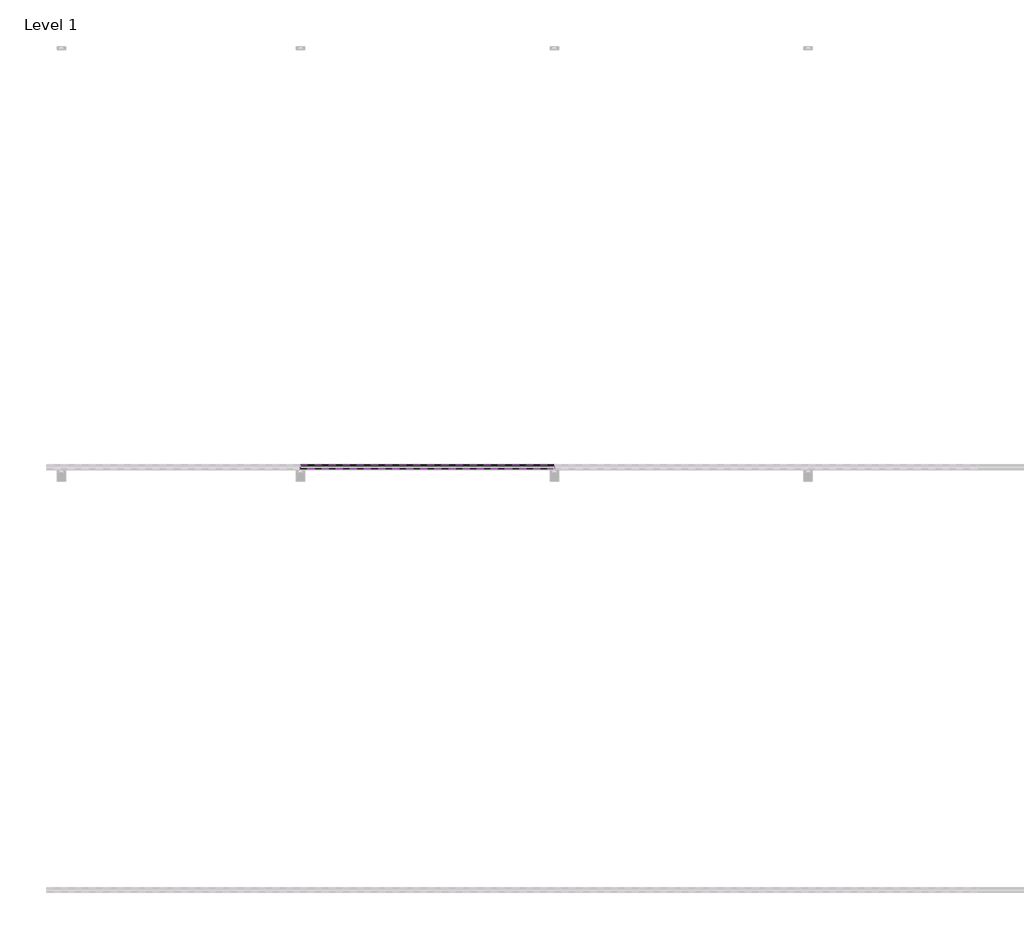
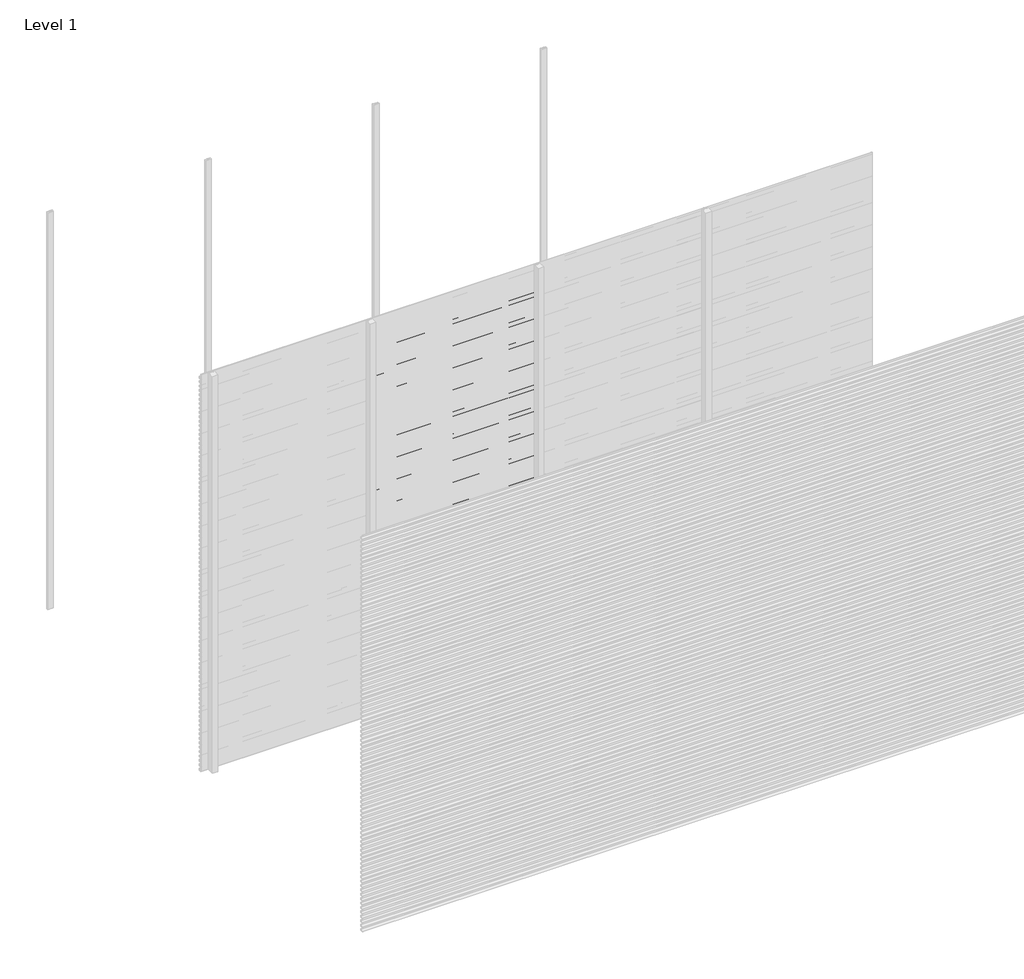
# One storey, part 36 of 77: 72 proxies.
"""IFC4 building model written with IfcOpenShell, lengths in millimetres."""

from ifc_helpers import new_model, si_unit, frame, origin, place, context, project, spatial, polyline, outline, extrude, element, save

model = new_model("IFC4")

# Units and contexts
model_context = context("Model", 3, world=origin())
ifc_project = project(units=[si_unit("LENGTHUNIT", "METRE", prefix="MILLI")], contexts=[model_context])

# Site, building, storey
site = spatial("IfcSite", under=ifc_project)
building = spatial("IfcBuilding", under=site)
storey = spatial("IfcBuildingStorey", under=building, Name="Level 1", Elevation=0.0)

# Proxies
placement = place(None, origin())
element("IfcBuildingElementProxy", 1, Name="Wall Sweeps", at=placement, inside=storey, context=model_context, shape_type="SweptSolid", body=[
    extrude(outline(polyline([(-29978.6, 2806.0359887), (-29998.0, 2817.2366691), (-29998.0, 2830.5), (-29997.0, 2830.5), (-29997.0, 2817.8191057), (-29977.6, 2806.6185105), (-29977.6, 2793.0185105), (-29978.6, 2794.5953129), (-29978.6, 2800.4032062), (-29995.9773817, 2792.3), (-29996.4, 2793.2063078), (-29978.6, 2801.5065841), (-29978.6, 2806.0359887)])), frame((1200.0, 0.0, 0.0), z_axis=(1.0, 0.0, 0.0), x_axis=(0.0, 1.0, 0.0)), (0.0, 0.0, 1.0), 1200.0),
])
element("IfcBuildingElementProxy", 2, Name="Wall Sweeps", at=placement, inside=storey, context=model_context, shape_type="SweptSolid", body=[
    extrude(outline(polyline([(-29978.6, 2772.7359887), (-29998.0, 2783.9366691), (-29998.0, 2797.2), (-29997.0, 2797.2), (-29997.0, 2784.5191057), (-29977.6, 2773.3185105), (-29977.6, 2759.7185105), (-29978.6, 2761.2953129), (-29978.6, 2767.1032062), (-29995.9773817, 2759.0), (-29996.4, 2759.9063078), (-29978.6, 2768.2065841), (-29978.6, 2772.7359887)])), frame((1200.0, 0.0, 0.0), z_axis=(1.0, 0.0, 0.0), x_axis=(0.0, 1.0, 0.0)), (0.0, 0.0, 1.0), 1200.0),
])
element("IfcBuildingElementProxy", 3, Name="Wall Sweeps", at=placement, inside=storey, context=model_context, shape_type="SweptSolid", body=[
    extrude(outline(polyline([(-29978.6, 2739.4359887), (-29998.0, 2750.6366691), (-29998.0, 2763.9), (-29997.0, 2763.9), (-29997.0, 2751.2191057), (-29977.6, 2740.0185105), (-29977.6, 2726.4185105), (-29978.6, 2727.9953129), (-29978.6, 2733.8032062), (-29995.9773817, 2725.7), (-29996.4, 2726.6063078), (-29978.6, 2734.9065841), (-29978.6, 2739.4359887)])), frame((1200.0, 0.0, 0.0), z_axis=(1.0, 0.0, 0.0), x_axis=(0.0, 1.0, 0.0)), (0.0, 0.0, 1.0), 1200.0),
])
element("IfcBuildingElementProxy", 4, Name="Wall Sweeps", at=placement, inside=storey, context=model_context, shape_type="SweptSolid", body=[
    extrude(outline(polyline([(-29978.6, 2706.1359887), (-29998.0, 2717.3366691), (-29998.0, 2730.6), (-29997.0, 2730.6), (-29997.0, 2717.9191057), (-29977.6, 2706.7185105), (-29977.6, 2693.1185105), (-29978.6, 2694.6953129), (-29978.6, 2700.5032062), (-29995.9773817, 2692.4), (-29996.4, 2693.3063078), (-29978.6, 2701.6065841), (-29978.6, 2706.1359887)])), frame((1200.0, 0.0, 0.0), z_axis=(1.0, 0.0, 0.0), x_axis=(0.0, 1.0, 0.0)), (0.0, 0.0, 1.0), 1200.0),
])
element("IfcBuildingElementProxy", 5, Name="Wall Sweeps", at=placement, inside=storey, context=model_context, shape_type="SweptSolid", body=[
    extrude(outline(polyline([(-29978.6, 2672.8359887), (-29998.0, 2684.0366691), (-29998.0, 2697.3), (-29997.0, 2697.3), (-29997.0, 2684.6191057), (-29977.6, 2673.4185105), (-29977.6, 2659.8185105), (-29978.6, 2661.3953129), (-29978.6, 2667.2032062), (-29995.9773817, 2659.1), (-29996.4, 2660.0063078), (-29978.6, 2668.3065841), (-29978.6, 2672.8359887)])), frame((1200.0, 0.0, 0.0), z_axis=(1.0, 0.0, 0.0), x_axis=(0.0, 1.0, 0.0)), (0.0, 0.0, 1.0), 1200.0),
])
element("IfcBuildingElementProxy", 6, Name="Wall Sweeps", at=placement, inside=storey, context=model_context, shape_type="SweptSolid", body=[
    extrude(outline(polyline([(-29978.6, 2639.5359887), (-29998.0, 2650.7366691), (-29998.0, 2664.0), (-29997.0, 2664.0), (-29997.0, 2651.3191057), (-29977.6, 2640.1185105), (-29977.6, 2626.5185105), (-29978.6, 2628.0953129), (-29978.6, 2633.9032062), (-29995.9773817, 2625.8), (-29996.4, 2626.7063078), (-29978.6, 2635.0065841), (-29978.6, 2639.5359887)])), frame((1200.0, 0.0, 0.0), z_axis=(1.0, 0.0, 0.0), x_axis=(0.0, 1.0, 0.0)), (0.0, 0.0, 1.0), 1200.0),
])
element("IfcBuildingElementProxy", 7, Name="Wall Sweeps", at=placement, inside=storey, context=model_context, shape_type="SweptSolid", body=[
    extrude(outline(polyline([(-29978.6, 2606.2359887), (-29998.0, 2617.4366691), (-29998.0, 2630.7), (-29997.0, 2630.7), (-29997.0, 2618.0191057), (-29977.6, 2606.8185105), (-29977.6, 2593.2185105), (-29978.6, 2594.7953129), (-29978.6, 2600.6032062), (-29995.9773817, 2592.5), (-29996.4, 2593.4063078), (-29978.6, 2601.7065841), (-29978.6, 2606.2359887)])), frame((1200.0, 0.0, 0.0), z_axis=(1.0, 0.0, 0.0), x_axis=(0.0, 1.0, 0.0)), (0.0, 0.0, 1.0), 1200.0),
])
element("IfcBuildingElementProxy", 8, Name="Wall Sweeps", at=placement, inside=storey, context=model_context, shape_type="SweptSolid", body=[
    extrude(outline(polyline([(-29978.6, 2572.9359887), (-29998.0, 2584.1366691), (-29998.0, 2597.4), (-29997.0, 2597.4), (-29997.0, 2584.7191057), (-29977.6, 2573.5185105), (-29977.6, 2559.9185105), (-29978.6, 2561.4953129), (-29978.6, 2567.3032062), (-29995.9773817, 2559.2), (-29996.4, 2560.1063078), (-29978.6, 2568.4065841), (-29978.6, 2572.9359887)])), frame((1200.0, 0.0, 0.0), z_axis=(1.0, 0.0, 0.0), x_axis=(0.0, 1.0, 0.0)), (0.0, 0.0, 1.0), 1200.0),
])
element("IfcBuildingElementProxy", 9, Name="Wall Sweeps", at=placement, inside=storey, context=model_context, shape_type="SweptSolid", body=[
    extrude(outline(polyline([(-29978.6, 2539.6359887), (-29998.0, 2550.8366691), (-29998.0, 2564.1), (-29997.0, 2564.1), (-29997.0, 2551.4191057), (-29977.6, 2540.2185105), (-29977.6, 2526.6185105), (-29978.6, 2528.1953129), (-29978.6, 2534.0032062), (-29995.9773817, 2525.9), (-29996.4, 2526.8063078), (-29978.6, 2535.1065841), (-29978.6, 2539.6359887)])), frame((1200.0, 0.0, 0.0), z_axis=(1.0, 0.0, 0.0), x_axis=(0.0, 1.0, 0.0)), (0.0, 0.0, 1.0), 1200.0),
])
element("IfcBuildingElementProxy", 10, Name="Wall Sweeps", at=placement, inside=storey, context=model_context, shape_type="SweptSolid", body=[
    extrude(outline(polyline([(-29978.6, 2506.3359887), (-29998.0, 2517.5366691), (-29998.0, 2530.8), (-29997.0, 2530.8), (-29997.0, 2518.1191057), (-29977.6, 2506.9185105), (-29977.6, 2493.3185105), (-29978.6, 2494.8953129), (-29978.6, 2500.7032062), (-29995.9773817, 2492.6), (-29996.4, 2493.5063078), (-29978.6, 2501.8065841), (-29978.6, 2506.3359887)])), frame((1200.0, 0.0, 0.0), z_axis=(1.0, 0.0, 0.0), x_axis=(0.0, 1.0, 0.0)), (0.0, 0.0, 1.0), 1200.0),
])
element("IfcBuildingElementProxy", 11, Name="Wall Sweeps", at=placement, inside=storey, context=model_context, shape_type="SweptSolid", body=[
    extrude(outline(polyline([(-29978.6, 2473.0359887), (-29998.0, 2484.2366691), (-29998.0, 2497.5), (-29997.0, 2497.5), (-29997.0, 2484.8191057), (-29977.6, 2473.6185105), (-29977.6, 2460.0185105), (-29978.6, 2461.5953129), (-29978.6, 2467.4032062), (-29995.9773817, 2459.3), (-29996.4, 2460.2063078), (-29978.6, 2468.5065841), (-29978.6, 2473.0359887)])), frame((1200.0, 0.0, 0.0), z_axis=(1.0, 0.0, 0.0), x_axis=(0.0, 1.0, 0.0)), (0.0, 0.0, 1.0), 1200.0),
])
element("IfcBuildingElementProxy", 12, Name="Wall Sweeps", at=placement, inside=storey, context=model_context, shape_type="SweptSolid", body=[
    extrude(outline(polyline([(-29978.6, 2439.7359887), (-29998.0, 2450.9366691), (-29998.0, 2464.2), (-29997.0, 2464.2), (-29997.0, 2451.5191057), (-29977.6, 2440.3185105), (-29977.6, 2426.7185105), (-29978.6, 2428.2953129), (-29978.6, 2434.1032062), (-29995.9773817, 2426.0), (-29996.4, 2426.9063078), (-29978.6, 2435.2065841), (-29978.6, 2439.7359887)])), frame((1200.0, 0.0, 0.0), z_axis=(1.0, 0.0, 0.0), x_axis=(0.0, 1.0, 0.0)), (0.0, 0.0, 1.0), 1200.0),
])
element("IfcBuildingElementProxy", 13, Name="Wall Sweeps", at=placement, inside=storey, context=model_context, shape_type="SweptSolid", body=[
    extrude(outline(polyline([(-29978.6, 2406.4359887), (-29998.0, 2417.6366691), (-29998.0, 2430.9), (-29997.0, 2430.9), (-29997.0, 2418.2191057), (-29977.6, 2407.0185105), (-29977.6, 2393.4185105), (-29978.6, 2394.9953129), (-29978.6, 2400.8032062), (-29995.9773817, 2392.7), (-29996.4, 2393.6063078), (-29978.6, 2401.9065841), (-29978.6, 2406.4359887)])), frame((1200.0, 0.0, 0.0), z_axis=(1.0, 0.0, 0.0), x_axis=(0.0, 1.0, 0.0)), (0.0, 0.0, 1.0), 1200.0),
])
element("IfcBuildingElementProxy", 14, Name="Wall Sweeps", at=placement, inside=storey, context=model_context, shape_type="SweptSolid", body=[
    extrude(outline(polyline([(-29978.6, 2373.1359887), (-29998.0, 2384.3366691), (-29998.0, 2397.6), (-29997.0, 2397.6), (-29997.0, 2384.9191057), (-29977.6, 2373.7185105), (-29977.6, 2360.1185105), (-29978.6, 2361.6953129), (-29978.6, 2367.5032062), (-29995.9773817, 2359.4), (-29996.4, 2360.3063078), (-29978.6, 2368.6065841), (-29978.6, 2373.1359887)])), frame((1200.0, 0.0, 0.0), z_axis=(1.0, 0.0, 0.0), x_axis=(0.0, 1.0, 0.0)), (0.0, 0.0, 1.0), 1200.0),
])
element("IfcBuildingElementProxy", 15, Name="Wall Sweeps", at=placement, inside=storey, context=model_context, shape_type="SweptSolid", body=[
    extrude(outline(polyline([(-29978.6, 2339.8359887), (-29998.0, 2351.0366691), (-29998.0, 2364.3), (-29997.0, 2364.3), (-29997.0, 2351.6191057), (-29977.6, 2340.4185105), (-29977.6, 2326.8185105), (-29978.6, 2328.3953129), (-29978.6, 2334.2032062), (-29995.9773817, 2326.1), (-29996.4, 2327.0063078), (-29978.6, 2335.3065841), (-29978.6, 2339.8359887)])), frame((1200.0, 0.0, 0.0), z_axis=(1.0, 0.0, 0.0), x_axis=(0.0, 1.0, 0.0)), (0.0, 0.0, 1.0), 1200.0),
])
element("IfcBuildingElementProxy", 16, Name="Wall Sweeps", at=placement, inside=storey, context=model_context, shape_type="SweptSolid", body=[
    extrude(outline(polyline([(-29978.6, 2306.5359887), (-29998.0, 2317.7366691), (-29998.0, 2331.0), (-29997.0, 2331.0), (-29997.0, 2318.3191057), (-29977.6, 2307.1185105), (-29977.6, 2293.5185105), (-29978.6, 2295.0953129), (-29978.6, 2300.9032062), (-29995.9773817, 2292.8), (-29996.4, 2293.7063078), (-29978.6, 2302.0065841), (-29978.6, 2306.5359887)])), frame((1200.0, 0.0, 0.0), z_axis=(1.0, 0.0, 0.0), x_axis=(0.0, 1.0, 0.0)), (0.0, 0.0, 1.0), 1200.0),
])
element("IfcBuildingElementProxy", 17, Name="Wall Sweeps", at=placement, inside=storey, context=model_context, shape_type="SweptSolid", body=[
    extrude(outline(polyline([(-29978.6, 2273.2359887), (-29998.0, 2284.4366691), (-29998.0, 2297.7), (-29997.0, 2297.7), (-29997.0, 2285.0191057), (-29977.6, 2273.8185105), (-29977.6, 2260.2185105), (-29978.6, 2261.7953129), (-29978.6, 2267.6032062), (-29995.9773817, 2259.5), (-29996.4, 2260.4063078), (-29978.6, 2268.7065841), (-29978.6, 2273.2359887)])), frame((1200.0, 0.0, 0.0), z_axis=(1.0, 0.0, 0.0), x_axis=(0.0, 1.0, 0.0)), (0.0, 0.0, 1.0), 1200.0),
])
element("IfcBuildingElementProxy", 18, Name="Wall Sweeps", at=placement, inside=storey, context=model_context, shape_type="SweptSolid", body=[
    extrude(outline(polyline([(-29978.6, 2239.9359887), (-29998.0, 2251.1366691), (-29998.0, 2264.4), (-29997.0, 2264.4), (-29997.0, 2251.7191057), (-29977.6, 2240.5185105), (-29977.6, 2226.9185105), (-29978.6, 2228.4953129), (-29978.6, 2234.3032062), (-29995.9773817, 2226.2), (-29996.4, 2227.1063078), (-29978.6, 2235.4065841), (-29978.6, 2239.9359887)])), frame((1200.0, 0.0, 0.0), z_axis=(1.0, 0.0, 0.0), x_axis=(0.0, 1.0, 0.0)), (0.0, 0.0, 1.0), 1200.0),
])
element("IfcBuildingElementProxy", 19, Name="Wall Sweeps", at=placement, inside=storey, context=model_context, shape_type="SweptSolid", body=[
    extrude(outline(polyline([(-29978.6, 2206.6359887), (-29998.0, 2217.8366691), (-29998.0, 2231.1), (-29997.0, 2231.1), (-29997.0, 2218.4191057), (-29977.6, 2207.2185105), (-29977.6, 2193.6185105), (-29978.6, 2195.1953129), (-29978.6, 2201.0032062), (-29995.9773817, 2192.9), (-29996.4, 2193.8063078), (-29978.6, 2202.1065841), (-29978.6, 2206.6359887)])), frame((1200.0, 0.0, 0.0), z_axis=(1.0, 0.0, 0.0), x_axis=(0.0, 1.0, 0.0)), (0.0, 0.0, 1.0), 1200.0),
])
element("IfcBuildingElementProxy", 20, Name="Wall Sweeps", at=placement, inside=storey, context=model_context, shape_type="SweptSolid", body=[
    extrude(outline(polyline([(-29978.6, 2173.3359887), (-29998.0, 2184.5366691), (-29998.0, 2197.8), (-29997.0, 2197.8), (-29997.0, 2185.1191057), (-29977.6, 2173.9185105), (-29977.6, 2160.3185105), (-29978.6, 2161.8953129), (-29978.6, 2167.7032062), (-29995.9773817, 2159.6), (-29996.4, 2160.5063078), (-29978.6, 2168.8065841), (-29978.6, 2173.3359887)])), frame((1200.0, 0.0, 0.0), z_axis=(1.0, 0.0, 0.0), x_axis=(0.0, 1.0, 0.0)), (0.0, 0.0, 1.0), 1200.0),
])
element("IfcBuildingElementProxy", 21, Name="Wall Sweeps", at=placement, inside=storey, context=model_context, shape_type="SweptSolid", body=[
    extrude(outline(polyline([(-29978.6, 2140.0359887), (-29998.0, 2151.2366691), (-29998.0, 2164.5), (-29997.0, 2164.5), (-29997.0, 2151.8191057), (-29977.6, 2140.6185105), (-29977.6, 2127.0185105), (-29978.6, 2128.5953129), (-29978.6, 2134.4032062), (-29995.9773817, 2126.3), (-29996.4, 2127.2063078), (-29978.6, 2135.5065841), (-29978.6, 2140.0359887)])), frame((1200.0, 0.0, 0.0), z_axis=(1.0, 0.0, 0.0), x_axis=(0.0, 1.0, 0.0)), (0.0, 0.0, 1.0), 1200.0),
])
element("IfcBuildingElementProxy", 22, Name="Wall Sweeps", at=placement, inside=storey, context=model_context, shape_type="SweptSolid", body=[
    extrude(outline(polyline([(-29978.6, 2106.7359887), (-29998.0, 2117.9366691), (-29998.0, 2131.2), (-29997.0, 2131.2), (-29997.0, 2118.5191057), (-29977.6, 2107.3185105), (-29977.6, 2093.7185105), (-29978.6, 2095.2953129), (-29978.6, 2101.1032062), (-29995.9773817, 2093.0), (-29996.4, 2093.9063078), (-29978.6, 2102.2065841), (-29978.6, 2106.7359887)])), frame((1200.0, 0.0, 0.0), z_axis=(1.0, 0.0, 0.0), x_axis=(0.0, 1.0, 0.0)), (0.0, 0.0, 1.0), 1200.0),
])
element("IfcBuildingElementProxy", 23, Name="Wall Sweeps", at=placement, inside=storey, context=model_context, shape_type="SweptSolid", body=[
    extrude(outline(polyline([(-29978.6, 2073.4359887), (-29998.0, 2084.6366691), (-29998.0, 2097.9), (-29997.0, 2097.9), (-29997.0, 2085.2191057), (-29977.6, 2074.0185105), (-29977.6, 2060.4185105), (-29978.6, 2061.9953129), (-29978.6, 2067.8032062), (-29995.9773817, 2059.7), (-29996.4, 2060.6063078), (-29978.6, 2068.9065841), (-29978.6, 2073.4359887)])), frame((1200.0, 0.0, 0.0), z_axis=(1.0, 0.0, 0.0), x_axis=(0.0, 1.0, 0.0)), (0.0, 0.0, 1.0), 1200.0),
])
element("IfcBuildingElementProxy", 24, Name="Wall Sweeps", at=placement, inside=storey, context=model_context, shape_type="SweptSolid", body=[
    extrude(outline(polyline([(-29978.6, 2040.1359887), (-29998.0, 2051.3366691), (-29998.0, 2064.6), (-29997.0, 2064.6), (-29997.0, 2051.9191057), (-29977.6, 2040.7185105), (-29977.6, 2027.1185105), (-29978.6, 2028.6953129), (-29978.6, 2034.5032062), (-29995.9773817, 2026.4), (-29996.4, 2027.3063078), (-29978.6, 2035.6065841), (-29978.6, 2040.1359887)])), frame((1200.0, 0.0, 0.0), z_axis=(1.0, 0.0, 0.0), x_axis=(0.0, 1.0, 0.0)), (0.0, 0.0, 1.0), 1200.0),
])
element("IfcBuildingElementProxy", 25, Name="Wall Sweeps", at=placement, inside=storey, context=model_context, shape_type="SweptSolid", body=[
    extrude(outline(polyline([(-29978.6, 2006.8359887), (-29998.0, 2018.0366691), (-29998.0, 2031.3), (-29997.0, 2031.3), (-29997.0, 2018.6191057), (-29977.6, 2007.4185105), (-29977.6, 1993.8185105), (-29978.6, 1995.3953129), (-29978.6, 2001.2032062), (-29995.9773817, 1993.1), (-29996.4, 1994.0063078), (-29978.6, 2002.3065841), (-29978.6, 2006.8359887)])), frame((1200.0, 0.0, 0.0), z_axis=(1.0, 0.0, 0.0), x_axis=(0.0, 1.0, 0.0)), (0.0, 0.0, 1.0), 1200.0),
])
element("IfcBuildingElementProxy", 26, Name="Wall Sweeps", at=placement, inside=storey, context=model_context, shape_type="SweptSolid", body=[
    extrude(outline(polyline([(-29978.6, 1973.5359887), (-29998.0, 1984.7366691), (-29998.0, 1998.0), (-29997.0, 1998.0), (-29997.0, 1985.3191057), (-29977.6, 1974.1185105), (-29977.6, 1960.5185105), (-29978.6, 1962.0953129), (-29978.6, 1967.9032062), (-29995.9773817, 1959.8), (-29996.4, 1960.7063078), (-29978.6, 1969.0065841), (-29978.6, 1973.5359887)])), frame((1200.0, 0.0, 0.0), z_axis=(1.0, 0.0, 0.0), x_axis=(0.0, 1.0, 0.0)), (0.0, 0.0, 1.0), 1200.0),
])
element("IfcBuildingElementProxy", 27, Name="Wall Sweeps", at=placement, inside=storey, context=model_context, shape_type="SweptSolid", body=[
    extrude(outline(polyline([(-29978.6, 1940.2359887), (-29998.0, 1951.4366691), (-29998.0, 1964.7), (-29997.0, 1964.7), (-29997.0, 1952.0191057), (-29977.6, 1940.8185105), (-29977.6, 1927.2185105), (-29978.6, 1928.7953129), (-29978.6, 1934.6032062), (-29995.9773817, 1926.5), (-29996.4, 1927.4063078), (-29978.6, 1935.7065841), (-29978.6, 1940.2359887)])), frame((1200.0, 0.0, 0.0), z_axis=(1.0, 0.0, 0.0), x_axis=(0.0, 1.0, 0.0)), (0.0, 0.0, 1.0), 1200.0),
])
element("IfcBuildingElementProxy", 28, Name="Wall Sweeps", at=placement, inside=storey, context=model_context, shape_type="SweptSolid", body=[
    extrude(outline(polyline([(-29978.6, 1906.9359887), (-29998.0, 1918.1366691), (-29998.0, 1931.4), (-29997.0, 1931.4), (-29997.0, 1918.7191057), (-29977.6, 1907.5185105), (-29977.6, 1893.9185105), (-29978.6, 1895.4953129), (-29978.6, 1901.3032062), (-29995.9773817, 1893.2), (-29996.4, 1894.1063078), (-29978.6, 1902.4065841), (-29978.6, 1906.9359887)])), frame((1200.0, 0.0, 0.0), z_axis=(1.0, 0.0, 0.0), x_axis=(0.0, 1.0, 0.0)), (0.0, 0.0, 1.0), 1200.0),
])
element("IfcBuildingElementProxy", 29, Name="Wall Sweeps", at=placement, inside=storey, context=model_context, shape_type="SweptSolid", body=[
    extrude(outline(polyline([(-29978.6, 1873.6359887), (-29998.0, 1884.8366691), (-29998.0, 1898.1), (-29997.0, 1898.1), (-29997.0, 1885.4191057), (-29977.6, 1874.2185105), (-29977.6, 1860.6185105), (-29978.6, 1862.1953129), (-29978.6, 1868.0032062), (-29995.9773817, 1859.9), (-29996.4, 1860.8063078), (-29978.6, 1869.1065841), (-29978.6, 1873.6359887)])), frame((1200.0, 0.0, 0.0), z_axis=(1.0, 0.0, 0.0), x_axis=(0.0, 1.0, 0.0)), (0.0, 0.0, 1.0), 1200.0),
])
element("IfcBuildingElementProxy", 30, Name="Wall Sweeps", at=placement, inside=storey, context=model_context, shape_type="SweptSolid", body=[
    extrude(outline(polyline([(-29978.6, 1840.3359887), (-29998.0, 1851.5366691), (-29998.0, 1864.8), (-29997.0, 1864.8), (-29997.0, 1852.1191057), (-29977.6, 1840.9185105), (-29977.6, 1827.3185105), (-29978.6, 1828.8953129), (-29978.6, 1834.7032062), (-29995.9773817, 1826.6), (-29996.4, 1827.5063078), (-29978.6, 1835.8065841), (-29978.6, 1840.3359887)])), frame((1200.0, 0.0, 0.0), z_axis=(1.0, 0.0, 0.0), x_axis=(0.0, 1.0, 0.0)), (0.0, 0.0, 1.0), 1200.0),
])
element("IfcBuildingElementProxy", 31, Name="Wall Sweeps", at=placement, inside=storey, context=model_context, shape_type="SweptSolid", body=[
    extrude(outline(polyline([(-29978.6, 1807.0359887), (-29998.0, 1818.2366691), (-29998.0, 1831.5), (-29997.0, 1831.5), (-29997.0, 1818.8191057), (-29977.6, 1807.6185105), (-29977.6, 1794.0185105), (-29978.6, 1795.5953129), (-29978.6, 1801.4032062), (-29995.9773817, 1793.3), (-29996.4, 1794.2063078), (-29978.6, 1802.5065841), (-29978.6, 1807.0359887)])), frame((1200.0, 0.0, 0.0), z_axis=(1.0, 0.0, 0.0), x_axis=(0.0, 1.0, 0.0)), (0.0, 0.0, 1.0), 1200.0),
])
element("IfcBuildingElementProxy", 32, Name="Wall Sweeps", at=placement, inside=storey, context=model_context, shape_type="SweptSolid", body=[
    extrude(outline(polyline([(-29978.6, 1773.7359887), (-29998.0, 1784.9366691), (-29998.0, 1798.2), (-29997.0, 1798.2), (-29997.0, 1785.5191057), (-29977.6, 1774.3185105), (-29977.6, 1760.7185105), (-29978.6, 1762.2953129), (-29978.6, 1768.1032062), (-29995.9773817, 1760.0), (-29996.4, 1760.9063078), (-29978.6, 1769.2065841), (-29978.6, 1773.7359887)])), frame((1200.0, 0.0, 0.0), z_axis=(1.0, 0.0, 0.0), x_axis=(0.0, 1.0, 0.0)), (0.0, 0.0, 1.0), 1200.0),
])
element("IfcBuildingElementProxy", 33, Name="Wall Sweeps", at=placement, inside=storey, context=model_context, shape_type="SweptSolid", body=[
    extrude(outline(polyline([(-29978.6, 1740.4359887), (-29998.0, 1751.6366691), (-29998.0, 1764.9), (-29997.0, 1764.9), (-29997.0, 1752.2191057), (-29977.6, 1741.0185105), (-29977.6, 1727.4185105), (-29978.6, 1728.9953129), (-29978.6, 1734.8032062), (-29995.9773817, 1726.7), (-29996.4, 1727.6063078), (-29978.6, 1735.9065841), (-29978.6, 1740.4359887)])), frame((1200.0, 0.0, 0.0), z_axis=(1.0, 0.0, 0.0), x_axis=(0.0, 1.0, 0.0)), (0.0, 0.0, 1.0), 1200.0),
])
element("IfcBuildingElementProxy", 34, Name="Wall Sweeps", at=placement, inside=storey, context=model_context, shape_type="SweptSolid", body=[
    extrude(outline(polyline([(-29978.6, 1707.1359887), (-29998.0, 1718.3366691), (-29998.0, 1731.6), (-29997.0, 1731.6), (-29997.0, 1718.9191057), (-29977.6, 1707.7185105), (-29977.6, 1694.1185105), (-29978.6, 1695.6953129), (-29978.6, 1701.5032062), (-29995.9773817, 1693.4), (-29996.4, 1694.3063078), (-29978.6, 1702.6065841), (-29978.6, 1707.1359887)])), frame((1200.0, 0.0, 0.0), z_axis=(1.0, 0.0, 0.0), x_axis=(0.0, 1.0, 0.0)), (0.0, 0.0, 1.0), 1200.0),
])
element("IfcBuildingElementProxy", 35, Name="Wall Sweeps", at=placement, inside=storey, context=model_context, shape_type="SweptSolid", body=[
    extrude(outline(polyline([(-29978.6, 1673.8359887), (-29998.0, 1685.0366691), (-29998.0, 1698.3), (-29997.0, 1698.3), (-29997.0, 1685.6191057), (-29977.6, 1674.4185105), (-29977.6, 1660.8185105), (-29978.6, 1662.3953129), (-29978.6, 1668.2032062), (-29995.9773817, 1660.1), (-29996.4, 1661.0063078), (-29978.6, 1669.3065841), (-29978.6, 1673.8359887)])), frame((1200.0, 0.0, 0.0), z_axis=(1.0, 0.0, 0.0), x_axis=(0.0, 1.0, 0.0)), (0.0, 0.0, 1.0), 1200.0),
])
element("IfcBuildingElementProxy", 36, Name="Wall Sweeps", at=placement, inside=storey, context=model_context, shape_type="SweptSolid", body=[
    extrude(outline(polyline([(-29978.6, 1640.5359887), (-29998.0, 1651.7366691), (-29998.0, 1665.0), (-29997.0, 1665.0), (-29997.0, 1652.3191057), (-29977.6, 1641.1185105), (-29977.6, 1627.5185105), (-29978.6, 1629.0953129), (-29978.6, 1634.9032062), (-29995.9773817, 1626.8), (-29996.4, 1627.7063078), (-29978.6, 1636.0065841), (-29978.6, 1640.5359887)])), frame((1200.0, 0.0, 0.0), z_axis=(1.0, 0.0, 0.0), x_axis=(0.0, 1.0, 0.0)), (0.0, 0.0, 1.0), 1200.0),
])
element("IfcBuildingElementProxy", 37, Name="Wall Sweeps", at=placement, inside=storey, context=model_context, shape_type="SweptSolid", body=[
    extrude(outline(polyline([(-29978.6, 1607.2359887), (-29998.0, 1618.4366691), (-29998.0, 1631.7), (-29997.0, 1631.7), (-29997.0, 1619.0191057), (-29977.6, 1607.8185105), (-29977.6, 1594.2185105), (-29978.6, 1595.7953129), (-29978.6, 1601.6032062), (-29995.9773817, 1593.5), (-29996.4, 1594.4063078), (-29978.6, 1602.7065841), (-29978.6, 1607.2359887)])), frame((1200.0, 0.0, 0.0), z_axis=(1.0, 0.0, 0.0), x_axis=(0.0, 1.0, 0.0)), (0.0, 0.0, 1.0), 1200.0),
])
element("IfcBuildingElementProxy", 38, Name="Wall Sweeps", at=placement, inside=storey, context=model_context, shape_type="SweptSolid", body=[
    extrude(outline(polyline([(-29978.6, 1573.9359887), (-29998.0, 1585.1366691), (-29998.0, 1598.4), (-29997.0, 1598.4), (-29997.0, 1585.7191057), (-29977.6, 1574.5185105), (-29977.6, 1560.9185105), (-29978.6, 1562.4953129), (-29978.6, 1568.3032062), (-29995.9773817, 1560.2), (-29996.4, 1561.1063078), (-29978.6, 1569.4065841), (-29978.6, 1573.9359887)])), frame((1200.0, 0.0, 0.0), z_axis=(1.0, 0.0, 0.0), x_axis=(0.0, 1.0, 0.0)), (0.0, 0.0, 1.0), 1200.0),
])
element("IfcBuildingElementProxy", 39, Name="Wall Sweeps", at=placement, inside=storey, context=model_context, shape_type="SweptSolid", body=[
    extrude(outline(polyline([(-29978.6, 1540.6359887), (-29998.0, 1551.8366691), (-29998.0, 1565.1), (-29997.0, 1565.1), (-29997.0, 1552.4191057), (-29977.6, 1541.2185105), (-29977.6, 1527.6185105), (-29978.6, 1529.1953129), (-29978.6, 1535.0032062), (-29995.9773817, 1526.9), (-29996.4, 1527.8063078), (-29978.6, 1536.1065841), (-29978.6, 1540.6359887)])), frame((1200.0, 0.0, 0.0), z_axis=(1.0, 0.0, 0.0), x_axis=(0.0, 1.0, 0.0)), (0.0, 0.0, 1.0), 1200.0),
])
element("IfcBuildingElementProxy", 40, Name="Wall Sweeps", at=placement, inside=storey, context=model_context, shape_type="SweptSolid", body=[
    extrude(outline(polyline([(-29978.6, 1507.3359887), (-29998.0, 1518.5366691), (-29998.0, 1531.8), (-29997.0, 1531.8), (-29997.0, 1519.1191057), (-29977.6, 1507.9185105), (-29977.6, 1494.3185105), (-29978.6, 1495.8953129), (-29978.6, 1501.7032062), (-29995.9773817, 1493.6), (-29996.4, 1494.5063078), (-29978.6, 1502.8065841), (-29978.6, 1507.3359887)])), frame((1200.0, 0.0, 0.0), z_axis=(1.0, 0.0, 0.0), x_axis=(0.0, 1.0, 0.0)), (0.0, 0.0, 1.0), 1200.0),
])
element("IfcBuildingElementProxy", 41, Name="Wall Sweeps", at=placement, inside=storey, context=model_context, shape_type="SweptSolid", body=[
    extrude(outline(polyline([(-29978.6, 1474.0359887), (-29998.0, 1485.2366691), (-29998.0, 1498.5), (-29997.0, 1498.5), (-29997.0, 1485.8191057), (-29977.6, 1474.6185105), (-29977.6, 1461.0185105), (-29978.6, 1462.5953129), (-29978.6, 1468.4032062), (-29995.9773817, 1460.3), (-29996.4, 1461.2063078), (-29978.6, 1469.5065841), (-29978.6, 1474.0359887)])), frame((1200.0, 0.0, 0.0), z_axis=(1.0, 0.0, 0.0), x_axis=(0.0, 1.0, 0.0)), (0.0, 0.0, 1.0), 1200.0),
])
element("IfcBuildingElementProxy", 42, Name="Wall Sweeps", at=placement, inside=storey, context=model_context, shape_type="SweptSolid", body=[
    extrude(outline(polyline([(-29978.6, 1440.7359887), (-29998.0, 1451.9366691), (-29998.0, 1465.2), (-29997.0, 1465.2), (-29997.0, 1452.5191057), (-29977.6, 1441.3185105), (-29977.6, 1427.7185105), (-29978.6, 1429.2953129), (-29978.6, 1435.1032062), (-29995.9773817, 1427.0), (-29996.4, 1427.9063078), (-29978.6, 1436.2065841), (-29978.6, 1440.7359887)])), frame((1200.0, 0.0, 0.0), z_axis=(1.0, 0.0, 0.0), x_axis=(0.0, 1.0, 0.0)), (0.0, 0.0, 1.0), 1200.0),
])
element("IfcBuildingElementProxy", 43, Name="Wall Sweeps", at=placement, inside=storey, context=model_context, shape_type="SweptSolid", body=[
    extrude(outline(polyline([(-29978.6, 1407.4359887), (-29998.0, 1418.6366691), (-29998.0, 1431.9), (-29997.0, 1431.9), (-29997.0, 1419.2191057), (-29977.6, 1408.0185105), (-29977.6, 1394.4185105), (-29978.6, 1395.9953129), (-29978.6, 1401.8032062), (-29995.9773817, 1393.7), (-29996.4, 1394.6063078), (-29978.6, 1402.9065841), (-29978.6, 1407.4359887)])), frame((1200.0, 0.0, 0.0), z_axis=(1.0, 0.0, 0.0), x_axis=(0.0, 1.0, 0.0)), (0.0, 0.0, 1.0), 1200.0),
])
element("IfcBuildingElementProxy", 44, Name="Wall Sweeps", at=placement, inside=storey, context=model_context, shape_type="SweptSolid", body=[
    extrude(outline(polyline([(-29978.6, 1374.1359887), (-29998.0, 1385.3366691), (-29998.0, 1398.6), (-29997.0, 1398.6), (-29997.0, 1385.9191057), (-29977.6, 1374.7185105), (-29977.6, 1361.1185105), (-29978.6, 1362.6953129), (-29978.6, 1368.5032062), (-29995.9773817, 1360.4), (-29996.4, 1361.3063078), (-29978.6, 1369.6065841), (-29978.6, 1374.1359887)])), frame((1200.0, 0.0, 0.0), z_axis=(1.0, 0.0, 0.0), x_axis=(0.0, 1.0, 0.0)), (0.0, 0.0, 1.0), 1200.0),
])
element("IfcBuildingElementProxy", 45, Name="Wall Sweeps", at=placement, inside=storey, context=model_context, shape_type="SweptSolid", body=[
    extrude(outline(polyline([(-29978.6, 1340.8359887), (-29998.0, 1352.0366691), (-29998.0, 1365.3), (-29997.0, 1365.3), (-29997.0, 1352.6191057), (-29977.6, 1341.4185105), (-29977.6, 1327.8185105), (-29978.6, 1329.3953129), (-29978.6, 1335.2032062), (-29995.9773817, 1327.1), (-29996.4, 1328.0063078), (-29978.6, 1336.3065841), (-29978.6, 1340.8359887)])), frame((1200.0, 0.0, 0.0), z_axis=(1.0, 0.0, 0.0), x_axis=(0.0, 1.0, 0.0)), (0.0, 0.0, 1.0), 1200.0),
])
element("IfcBuildingElementProxy", 46, Name="Wall Sweeps", at=placement, inside=storey, context=model_context, shape_type="SweptSolid", body=[
    extrude(outline(polyline([(-29978.6, 1307.5359887), (-29998.0, 1318.7366691), (-29998.0, 1332.0), (-29997.0, 1332.0), (-29997.0, 1319.3191057), (-29977.6, 1308.1185105), (-29977.6, 1294.5185105), (-29978.6, 1296.0953129), (-29978.6, 1301.9032062), (-29995.9773817, 1293.8), (-29996.4, 1294.7063078), (-29978.6, 1303.0065841), (-29978.6, 1307.5359887)])), frame((1200.0, 0.0, 0.0), z_axis=(1.0, 0.0, 0.0), x_axis=(0.0, 1.0, 0.0)), (0.0, 0.0, 1.0), 1200.0),
])
element("IfcBuildingElementProxy", 47, Name="Wall Sweeps", at=placement, inside=storey, context=model_context, shape_type="SweptSolid", body=[
    extrude(outline(polyline([(-29978.6, 1274.2359887), (-29998.0, 1285.4366691), (-29998.0, 1298.7), (-29997.0, 1298.7), (-29997.0, 1286.0191057), (-29977.6, 1274.8185105), (-29977.6, 1261.2185105), (-29978.6, 1262.7953129), (-29978.6, 1268.6032062), (-29995.9773817, 1260.5), (-29996.4, 1261.4063078), (-29978.6, 1269.7065841), (-29978.6, 1274.2359887)])), frame((1200.0, 0.0, 0.0), z_axis=(1.0, 0.0, 0.0), x_axis=(0.0, 1.0, 0.0)), (0.0, 0.0, 1.0), 1200.0),
])
element("IfcBuildingElementProxy", 48, Name="Wall Sweeps", at=placement, inside=storey, context=model_context, shape_type="SweptSolid", body=[
    extrude(outline(polyline([(-29978.6, 1240.9359887), (-29998.0, 1252.1366691), (-29998.0, 1265.4), (-29997.0, 1265.4), (-29997.0, 1252.7191057), (-29977.6, 1241.5185105), (-29977.6, 1227.9185105), (-29978.6, 1229.4953129), (-29978.6, 1235.3032062), (-29995.9773817, 1227.2), (-29996.4, 1228.1063078), (-29978.6, 1236.4065841), (-29978.6, 1240.9359887)])), frame((1200.0, 0.0, 0.0), z_axis=(1.0, 0.0, 0.0), x_axis=(0.0, 1.0, 0.0)), (0.0, 0.0, 1.0), 1200.0),
])
element("IfcBuildingElementProxy", 49, Name="Wall Sweeps", at=placement, inside=storey, context=model_context, shape_type="SweptSolid", body=[
    extrude(outline(polyline([(-29978.6, 1207.6359887), (-29998.0, 1218.8366691), (-29998.0, 1232.1), (-29997.0, 1232.1), (-29997.0, 1219.4191057), (-29977.6, 1208.2185105), (-29977.6, 1194.6185105), (-29978.6, 1196.1953129), (-29978.6, 1202.0032062), (-29995.9773817, 1193.9), (-29996.4, 1194.8063078), (-29978.6, 1203.1065841), (-29978.6, 1207.6359887)])), frame((1200.0, 0.0, 0.0), z_axis=(1.0, 0.0, 0.0), x_axis=(0.0, 1.0, 0.0)), (0.0, 0.0, 1.0), 1200.0),
])
element("IfcBuildingElementProxy", 50, Name="Wall Sweeps", at=placement, inside=storey, context=model_context, shape_type="SweptSolid", body=[
    extrude(outline(polyline([(-29978.6, 1174.3359887), (-29998.0, 1185.5366691), (-29998.0, 1198.8), (-29997.0, 1198.8), (-29997.0, 1186.1191057), (-29977.6, 1174.9185105), (-29977.6, 1161.3185105), (-29978.6, 1162.8953129), (-29978.6, 1168.7032062), (-29995.9773817, 1160.6), (-29996.4, 1161.5063078), (-29978.6, 1169.8065841), (-29978.6, 1174.3359887)])), frame((1200.0, 0.0, 0.0), z_axis=(1.0, 0.0, 0.0), x_axis=(0.0, 1.0, 0.0)), (0.0, 0.0, 1.0), 1200.0),
])
element("IfcBuildingElementProxy", 51, Name="Wall Sweeps", at=placement, inside=storey, context=model_context, shape_type="SweptSolid", body=[
    extrude(outline(polyline([(-29978.6, 1141.0359887), (-29998.0, 1152.2366691), (-29998.0, 1165.5), (-29997.0, 1165.5), (-29997.0, 1152.8191057), (-29977.6, 1141.6185105), (-29977.6, 1128.0185105), (-29978.6, 1129.5953129), (-29978.6, 1135.4032062), (-29995.9773817, 1127.3), (-29996.4, 1128.2063078), (-29978.6, 1136.5065841), (-29978.6, 1141.0359887)])), frame((1200.0, 0.0, 0.0), z_axis=(1.0, 0.0, 0.0), x_axis=(0.0, 1.0, 0.0)), (0.0, 0.0, 1.0), 1200.0),
])
element("IfcBuildingElementProxy", 52, Name="Wall Sweeps", at=placement, inside=storey, context=model_context, shape_type="SweptSolid", body=[
    extrude(outline(polyline([(-29978.6, 1107.7359887), (-29998.0, 1118.9366691), (-29998.0, 1132.2), (-29997.0, 1132.2), (-29997.0, 1119.5191057), (-29977.6, 1108.3185105), (-29977.6, 1094.7185105), (-29978.6, 1096.2953129), (-29978.6, 1102.1032062), (-29995.9773817, 1094.0), (-29996.4, 1094.9063078), (-29978.6, 1103.2065841), (-29978.6, 1107.7359887)])), frame((1200.0, 0.0, 0.0), z_axis=(1.0, 0.0, 0.0), x_axis=(0.0, 1.0, 0.0)), (0.0, 0.0, 1.0), 1200.0),
])
element("IfcBuildingElementProxy", 53, Name="Wall Sweeps", at=placement, inside=storey, context=model_context, shape_type="SweptSolid", body=[
    extrude(outline(polyline([(-29978.6, 1074.4359887), (-29998.0, 1085.6366691), (-29998.0, 1098.9), (-29997.0, 1098.9), (-29997.0, 1086.2191057), (-29977.6, 1075.0185105), (-29977.6, 1061.4185105), (-29978.6, 1062.9953129), (-29978.6, 1068.8032062), (-29995.9773817, 1060.7), (-29996.4, 1061.6063078), (-29978.6, 1069.9065841), (-29978.6, 1074.4359887)])), frame((1200.0, 0.0, 0.0), z_axis=(1.0, 0.0, 0.0), x_axis=(0.0, 1.0, 0.0)), (0.0, 0.0, 1.0), 1200.0),
])
element("IfcBuildingElementProxy", 54, Name="Wall Sweeps", at=placement, inside=storey, context=model_context, shape_type="SweptSolid", body=[
    extrude(outline(polyline([(-29978.6, 1041.1359887), (-29998.0, 1052.3366691), (-29998.0, 1065.6), (-29997.0, 1065.6), (-29997.0, 1052.9191057), (-29977.6, 1041.7185105), (-29977.6, 1028.1185105), (-29978.6, 1029.6953129), (-29978.6, 1035.5032062), (-29995.9773817, 1027.4), (-29996.4, 1028.3063078), (-29978.6, 1036.6065841), (-29978.6, 1041.1359887)])), frame((1200.0, 0.0, 0.0), z_axis=(1.0, 0.0, 0.0), x_axis=(0.0, 1.0, 0.0)), (0.0, 0.0, 1.0), 1200.0),
])
element("IfcBuildingElementProxy", 55, Name="Wall Sweeps", at=placement, inside=storey, context=model_context, shape_type="SweptSolid", body=[
    extrude(outline(polyline([(-29978.6, 1007.8359887), (-29998.0, 1019.0366691), (-29998.0, 1032.3), (-29997.0, 1032.3), (-29997.0, 1019.6191057), (-29977.6, 1008.4185105), (-29977.6, 994.8185105), (-29978.6, 996.3953129), (-29978.6, 1002.2032062), (-29995.9773817, 994.1), (-29996.4, 995.0063078), (-29978.6, 1003.3065841), (-29978.6, 1007.8359887)])), frame((1200.0, 0.0, 0.0), z_axis=(1.0, 0.0, 0.0), x_axis=(0.0, 1.0, 0.0)), (0.0, 0.0, 1.0), 1200.0),
])
element("IfcBuildingElementProxy", 56, Name="Wall Sweeps", at=placement, inside=storey, context=model_context, shape_type="SweptSolid", body=[
    extrude(outline(polyline([(-29978.6, 974.5359887), (-29998.0, 985.7366691), (-29998.0, 999.0), (-29997.0, 999.0), (-29997.0, 986.3191057), (-29977.6, 975.1185105), (-29977.6, 961.5185105), (-29978.6, 963.0953129), (-29978.6, 968.9032062), (-29995.9773817, 960.8), (-29996.4, 961.7063078), (-29978.6, 970.0065841), (-29978.6, 974.5359887)])), frame((1200.0, 0.0, 0.0), z_axis=(1.0, 0.0, 0.0), x_axis=(0.0, 1.0, 0.0)), (0.0, 0.0, 1.0), 1200.0),
])
element("IfcBuildingElementProxy", 57, Name="Wall Sweeps", at=placement, inside=storey, context=model_context, shape_type="SweptSolid", body=[
    extrude(outline(polyline([(-29978.6, 941.2359887), (-29998.0, 952.4366691), (-29998.0, 965.7), (-29997.0, 965.7), (-29997.0, 953.0191057), (-29977.6, 941.8185105), (-29977.6, 928.2185105), (-29978.6, 929.7953129), (-29978.6, 935.6032062), (-29995.9773817, 927.5), (-29996.4, 928.4063078), (-29978.6, 936.7065841), (-29978.6, 941.2359887)])), frame((1200.0, 0.0, 0.0), z_axis=(1.0, 0.0, 0.0), x_axis=(0.0, 1.0, 0.0)), (0.0, 0.0, 1.0), 1200.0),
])
element("IfcBuildingElementProxy", 58, Name="Wall Sweeps", at=placement, inside=storey, context=model_context, shape_type="SweptSolid", body=[
    extrude(outline(polyline([(-29978.6, 907.9359887), (-29998.0, 919.1366691), (-29998.0, 932.4), (-29997.0, 932.4), (-29997.0, 919.7191057), (-29977.6, 908.5185105), (-29977.6, 894.9185105), (-29978.6, 896.4953129), (-29978.6, 902.3032062), (-29995.9773817, 894.2), (-29996.4, 895.1063078), (-29978.6, 903.4065841), (-29978.6, 907.9359887)])), frame((1200.0, 0.0, 0.0), z_axis=(1.0, 0.0, 0.0), x_axis=(0.0, 1.0, 0.0)), (0.0, 0.0, 1.0), 1200.0),
])
element("IfcBuildingElementProxy", 59, Name="Wall Sweeps", at=placement, inside=storey, context=model_context, shape_type="SweptSolid", body=[
    extrude(outline(polyline([(-29978.6, 874.6359887), (-29998.0, 885.8366691), (-29998.0, 899.1), (-29997.0, 899.1), (-29997.0, 886.4191057), (-29977.6, 875.2185105), (-29977.6, 861.6185105), (-29978.6, 863.1953129), (-29978.6, 869.0032062), (-29995.9773817, 860.9), (-29996.4, 861.8063078), (-29978.6, 870.1065841), (-29978.6, 874.6359887)])), frame((1200.0, 0.0, 0.0), z_axis=(1.0, 0.0, 0.0), x_axis=(0.0, 1.0, 0.0)), (0.0, 0.0, 1.0), 1200.0),
])
element("IfcBuildingElementProxy", 60, Name="Wall Sweeps", at=placement, inside=storey, context=model_context, shape_type="SweptSolid", body=[
    extrude(outline(polyline([(-29978.6, 841.3359887), (-29998.0, 852.5366691), (-29998.0, 865.8), (-29997.0, 865.8), (-29997.0, 853.1191057), (-29977.6, 841.9185105), (-29977.6, 828.3185105), (-29978.6, 829.8953129), (-29978.6, 835.7032062), (-29995.9773817, 827.6), (-29996.4, 828.5063078), (-29978.6, 836.8065841), (-29978.6, 841.3359887)])), frame((1200.0, 0.0, 0.0), z_axis=(1.0, 0.0, 0.0), x_axis=(0.0, 1.0, 0.0)), (0.0, 0.0, 1.0), 1200.0),
])
element("IfcBuildingElementProxy", 61, Name="Wall Sweeps", at=placement, inside=storey, context=model_context, shape_type="SweptSolid", body=[
    extrude(outline(polyline([(-29978.6, 808.0359887), (-29998.0, 819.2366691), (-29998.0, 832.5), (-29997.0, 832.5), (-29997.0, 819.8191057), (-29977.6, 808.6185105), (-29977.6, 795.0185105), (-29978.6, 796.5953129), (-29978.6, 802.4032062), (-29995.9773817, 794.3), (-29996.4, 795.2063078), (-29978.6, 803.5065841), (-29978.6, 808.0359887)])), frame((1200.0, 0.0, 0.0), z_axis=(1.0, 0.0, 0.0), x_axis=(0.0, 1.0, 0.0)), (0.0, 0.0, 1.0), 1200.0),
])
element("IfcBuildingElementProxy", 62, Name="Wall Sweeps", at=placement, inside=storey, context=model_context, shape_type="SweptSolid", body=[
    extrude(outline(polyline([(-29978.6, 774.7359887), (-29998.0, 785.9366691), (-29998.0, 799.2), (-29997.0, 799.2), (-29997.0, 786.5191057), (-29977.6, 775.3185105), (-29977.6, 761.7185105), (-29978.6, 763.2953129), (-29978.6, 769.1032062), (-29995.9773817, 761.0), (-29996.4, 761.9063078), (-29978.6, 770.2065841), (-29978.6, 774.7359887)])), frame((1200.0, 0.0, 0.0), z_axis=(1.0, 0.0, 0.0), x_axis=(0.0, 1.0, 0.0)), (0.0, 0.0, 1.0), 1200.0),
])
element("IfcBuildingElementProxy", 63, Name="Wall Sweeps", at=placement, inside=storey, context=model_context, shape_type="SweptSolid", body=[
    extrude(outline(polyline([(-29978.6, 741.4359887), (-29998.0, 752.6366691), (-29998.0, 765.9), (-29997.0, 765.9), (-29997.0, 753.2191057), (-29977.6, 742.0185105), (-29977.6, 728.4185105), (-29978.6, 729.9953129), (-29978.6, 735.8032062), (-29995.9773817, 727.7), (-29996.4, 728.6063078), (-29978.6, 736.9065841), (-29978.6, 741.4359887)])), frame((1200.0, 0.0, 0.0), z_axis=(1.0, 0.0, 0.0), x_axis=(0.0, 1.0, 0.0)), (0.0, 0.0, 1.0), 1200.0),
])
element("IfcBuildingElementProxy", 64, Name="Wall Sweeps", at=placement, inside=storey, context=model_context, shape_type="SweptSolid", body=[
    extrude(outline(polyline([(-29978.6, 708.1359887), (-29998.0, 719.3366691), (-29998.0, 732.6), (-29997.0, 732.6), (-29997.0, 719.9191057), (-29977.6, 708.7185105), (-29977.6, 695.1185105), (-29978.6, 696.6953129), (-29978.6, 702.5032062), (-29995.9773817, 694.4), (-29996.4, 695.3063078), (-29978.6, 703.6065841), (-29978.6, 708.1359887)])), frame((1200.0, 0.0, 0.0), z_axis=(1.0, 0.0, 0.0), x_axis=(0.0, 1.0, 0.0)), (0.0, 0.0, 1.0), 1200.0),
])
element("IfcBuildingElementProxy", 65, Name="Wall Sweeps", at=placement, inside=storey, context=model_context, shape_type="SweptSolid", body=[
    extrude(outline(polyline([(-29978.6, 674.8359887), (-29998.0, 686.0366691), (-29998.0, 699.3), (-29997.0, 699.3), (-29997.0, 686.6191057), (-29977.6, 675.4185105), (-29977.6, 661.8185105), (-29978.6, 663.3953129), (-29978.6, 669.2032062), (-29995.9773817, 661.1), (-29996.4, 662.0063078), (-29978.6, 670.3065841), (-29978.6, 674.8359887)])), frame((1200.0, 0.0, 0.0), z_axis=(1.0, 0.0, 0.0), x_axis=(0.0, 1.0, 0.0)), (0.0, 0.0, 1.0), 1200.0),
])
element("IfcBuildingElementProxy", 66, Name="Wall Sweeps", at=placement, inside=storey, context=model_context, shape_type="SweptSolid", body=[
    extrude(outline(polyline([(-29978.6, 641.5359887), (-29998.0, 652.7366691), (-29998.0, 666.0), (-29997.0, 666.0), (-29997.0, 653.3191057), (-29977.6, 642.1185105), (-29977.6, 628.5185105), (-29978.6, 630.0953129), (-29978.6, 635.9032062), (-29995.9773817, 627.8), (-29996.4, 628.7063078), (-29978.6, 637.0065841), (-29978.6, 641.5359887)])), frame((1200.0, 0.0, 0.0), z_axis=(1.0, 0.0, 0.0), x_axis=(0.0, 1.0, 0.0)), (0.0, 0.0, 1.0), 1200.0),
])
element("IfcBuildingElementProxy", 67, Name="Wall Sweeps", at=placement, inside=storey, context=model_context, shape_type="SweptSolid", body=[
    extrude(outline(polyline([(-29978.6, 608.2359887), (-29998.0, 619.4366691), (-29998.0, 632.7), (-29997.0, 632.7), (-29997.0, 620.0191057), (-29977.6, 608.8185105), (-29977.6, 595.2185105), (-29978.6, 596.7953129), (-29978.6, 602.6032062), (-29995.9773817, 594.5), (-29996.4, 595.4063078), (-29978.6, 603.7065841), (-29978.6, 608.2359887)])), frame((1200.0, 0.0, 0.0), z_axis=(1.0, 0.0, 0.0), x_axis=(0.0, 1.0, 0.0)), (0.0, 0.0, 1.0), 1200.0),
])
element("IfcBuildingElementProxy", 68, Name="Wall Sweeps", at=placement, inside=storey, context=model_context, shape_type="SweptSolid", body=[
    extrude(outline(polyline([(-29978.6, 574.9359887), (-29998.0, 586.1366691), (-29998.0, 599.4), (-29997.0, 599.4), (-29997.0, 586.7191057), (-29977.6, 575.5185105), (-29977.6, 561.9185105), (-29978.6, 563.4953129), (-29978.6, 569.3032062), (-29995.9773817, 561.2), (-29996.4, 562.1063078), (-29978.6, 570.4065841), (-29978.6, 574.9359887)])), frame((1200.0, 0.0, 0.0), z_axis=(1.0, 0.0, 0.0), x_axis=(0.0, 1.0, 0.0)), (0.0, 0.0, 1.0), 1200.0),
])
element("IfcBuildingElementProxy", 69, Name="Wall Sweeps", at=placement, inside=storey, context=model_context, shape_type="SweptSolid", body=[
    extrude(outline(polyline([(-29978.6, 541.6359887), (-29998.0, 552.8366691), (-29998.0, 566.1), (-29997.0, 566.1), (-29997.0, 553.4191057), (-29977.6, 542.2185105), (-29977.6, 528.6185105), (-29978.6, 530.1953129), (-29978.6, 536.0032062), (-29995.9773817, 527.9), (-29996.4, 528.8063078), (-29978.6, 537.1065841), (-29978.6, 541.6359887)])), frame((1200.0, 0.0, 0.0), z_axis=(1.0, 0.0, 0.0), x_axis=(0.0, 1.0, 0.0)), (0.0, 0.0, 1.0), 1200.0),
])
element("IfcBuildingElementProxy", 70, Name="Wall Sweeps", at=placement, inside=storey, context=model_context, shape_type="SweptSolid", body=[
    extrude(outline(polyline([(-29978.6, 508.3359887), (-29998.0, 519.5366691), (-29998.0, 532.8), (-29997.0, 532.8), (-29997.0, 520.1191057), (-29977.6, 508.9185105), (-29977.6, 495.3185105), (-29978.6, 496.8953129), (-29978.6, 502.7032062), (-29995.9773817, 494.6), (-29996.4, 495.5063078), (-29978.6, 503.8065841), (-29978.6, 508.3359887)])), frame((1200.0, 0.0, 0.0), z_axis=(1.0, 0.0, 0.0), x_axis=(0.0, 1.0, 0.0)), (0.0, 0.0, 1.0), 1200.0),
])
element("IfcBuildingElementProxy", 71, Name="Wall Sweeps", at=placement, inside=storey, context=model_context, shape_type="SweptSolid", body=[
    extrude(outline(polyline([(-29978.6, 475.0359887), (-29998.0, 486.2366691), (-29998.0, 499.5), (-29997.0, 499.5), (-29997.0, 486.8191057), (-29977.6, 475.6185105), (-29977.6, 462.0185105), (-29978.6, 463.5953129), (-29978.6, 469.4032062), (-29995.9773817, 461.3), (-29996.4, 462.2063078), (-29978.6, 470.5065841), (-29978.6, 475.0359887)])), frame((1200.0, 0.0, 0.0), z_axis=(1.0, 0.0, 0.0), x_axis=(0.0, 1.0, 0.0)), (0.0, 0.0, 1.0), 1200.0),
])
element("IfcBuildingElementProxy", 72, Name="Wall Sweeps", at=placement, inside=storey, context=model_context, shape_type="SweptSolid", body=[
    extrude(outline(polyline([(-29978.6, 441.7359887), (-29998.0, 452.9366691), (-29998.0, 466.2), (-29997.0, 466.2), (-29997.0, 453.5191057), (-29977.6, 442.3185105), (-29977.6, 428.7185105), (-29978.6, 430.2953129), (-29978.6, 436.1032062), (-29995.9773817, 428.0), (-29996.4, 428.9063078), (-29978.6, 437.2065841), (-29978.6, 441.7359887)])), frame((1200.0, 0.0, 0.0), z_axis=(1.0, 0.0, 0.0), x_axis=(0.0, 1.0, 0.0)), (0.0, 0.0, 1.0), 1200.0),
])

save(model, "model.ifc")
